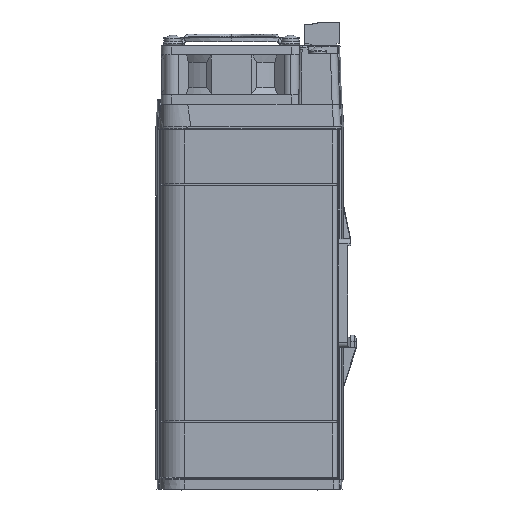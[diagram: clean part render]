
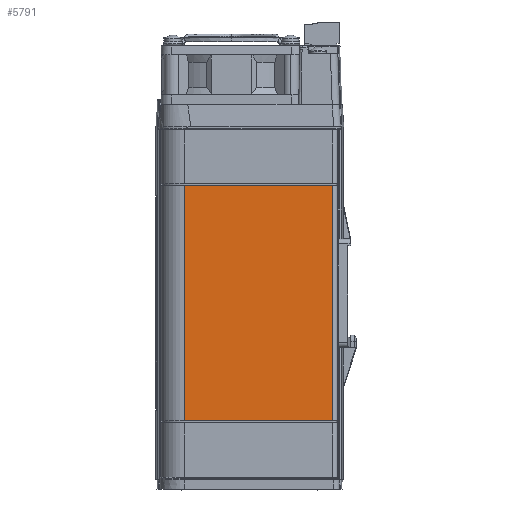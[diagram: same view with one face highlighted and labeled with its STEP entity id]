
A CAD part, left-side view. The second image highlights one B-rep face of the part: STEP entity #5791.
In plain terms, the highlighted planar face has unit normal (-1, 0, 0) as drawn and (0, 1, 0) by its records, which use the part's own axes.
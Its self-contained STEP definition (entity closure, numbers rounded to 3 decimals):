
#543 = DIRECTION ( 'NONE',  ( 1., 0., 0. ) ) ;
#582 = EDGE_CURVE ( 'NONE', #22546, #46561, #43818, .T. ) ;
#1535 = VECTOR ( 'NONE', #29704, 1000. ) ;
#1779 = CARTESIAN_POINT ( 'NONE',  ( 2., 24.6, 0. ) ) ;
#4295 = VECTOR ( 'NONE', #14614, 1000. ) ;
#5791 = ADVANCED_FACE ( 'NONE', ( #38050 ), #37729, .T. ) ;
#6830 = ORIENTED_EDGE ( 'NONE', *, *, #37124, .F. ) ;
#7935 = DIRECTION ( 'NONE',  ( -1., 0., 0. ) ) ;
#8371 = DIRECTION ( 'NONE',  ( 0., 0., -1. ) ) ;
#9508 = VECTOR ( 'NONE', #8371, 1000. ) ;
#14614 = DIRECTION ( 'NONE',  ( 0., 0., -1. ) ) ;
#17985 = ORIENTED_EDGE ( 'NONE', *, *, #40696, .T. ) ;
#18168 = EDGE_CURVE ( 'NONE', #46561, #55931, #57090, .T. ) ;
#20088 = LINE ( 'NONE', #1779, #1535 ) ;
#22546 = VERTEX_POINT ( 'NONE', #42956 ) ;
#24749 = CARTESIAN_POINT ( 'NONE',  ( 65., 24.6, 100. ) ) ;
#25142 = ORIENTED_EDGE ( 'NONE', *, *, #582, .T. ) ;
#25545 = VERTEX_POINT ( 'NONE', #52856 ) ;
#29704 = DIRECTION ( 'NONE',  ( -1., 0., 0. ) ) ;
#32100 = CARTESIAN_POINT ( 'NONE',  ( 65., 24.6, 100. ) ) ;
#34188 = AXIS2_PLACEMENT_3D ( 'NONE', #38360, #57283, #7935 ) ;
#37124 = EDGE_CURVE ( 'NONE', #22546, #25545, #53092, .T. ) ;
#37729 = PLANE ( 'NONE',  #34188 ) ;
#38050 = FACE_OUTER_BOUND ( 'NONE', #48460, .T. ) ;
#38284 = CARTESIAN_POINT ( 'NONE',  ( 65., 24.6, 0. ) ) ;
#38360 = CARTESIAN_POINT ( 'NONE',  ( 2., 24.6, 100. ) ) ;
#40696 = EDGE_CURVE ( 'NONE', #55931, #25545, #20088, .T. ) ;
#42956 = CARTESIAN_POINT ( 'NONE',  ( 2., 24.6, 100. ) ) ;
#43818 = LINE ( 'NONE', #49248, #61574 ) ;
#46561 = VERTEX_POINT ( 'NONE', #24749 ) ;
#48460 = EDGE_LOOP ( 'NONE', ( #6830, #25142, #56412, #17985 ) ) ;
#48602 = CARTESIAN_POINT ( 'NONE',  ( 2., 24.6, 100. ) ) ;
#49248 = CARTESIAN_POINT ( 'NONE',  ( 65., 24.6, 100. ) ) ;
#52856 = CARTESIAN_POINT ( 'NONE',  ( 2., 24.6, 0. ) ) ;
#53092 = LINE ( 'NONE', #48602, #4295 ) ;
#55931 = VERTEX_POINT ( 'NONE', #38284 ) ;
#56412 = ORIENTED_EDGE ( 'NONE', *, *, #18168, .T. ) ;
#57090 = LINE ( 'NONE', #32100, #9508 ) ;
#57283 = DIRECTION ( 'NONE',  ( 0., 1., 0. ) ) ;
#61574 = VECTOR ( 'NONE', #543, 1000. ) ;
